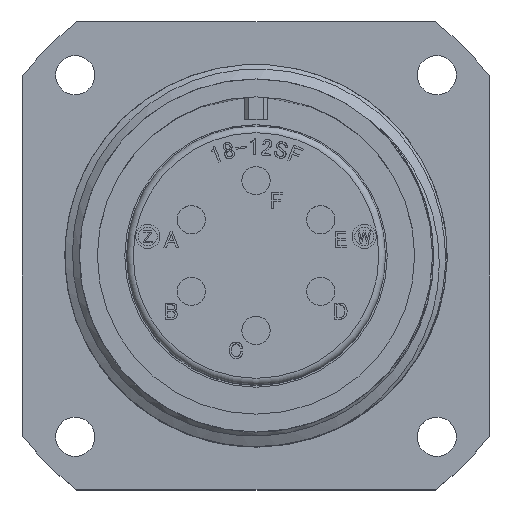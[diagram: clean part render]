
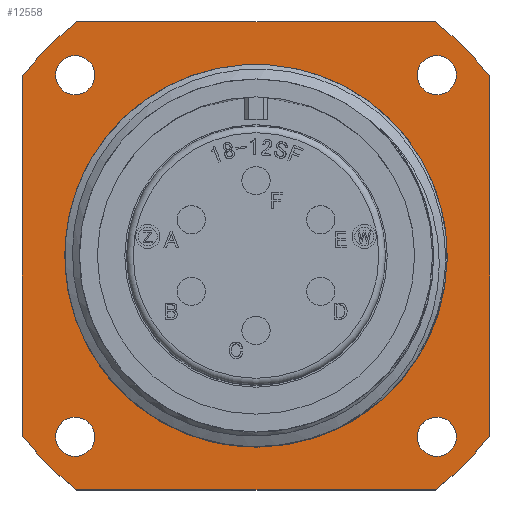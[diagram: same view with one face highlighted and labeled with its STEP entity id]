
A CAD part, top view. The second image highlights one B-rep face of the part: STEP entity #12558.
In plain terms, the highlighted planar face has unit normal (0, 0, 1).
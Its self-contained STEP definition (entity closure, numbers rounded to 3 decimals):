
#126 = EDGE_CURVE ( 'NONE', #29522, #24985, #13274, .T. ) ;
#159 = CARTESIAN_POINT ( 'NONE',  ( 0., 0., -19.24 ) ) ;
#315 = CARTESIAN_POINT ( 'NONE',  ( 12.03, 13.495, -19.24 ) ) ;
#393 = LINE ( 'NONE', #28834, #27933 ) ;
#1739 = DIRECTION ( 'NONE',  ( 1., 0., 0. ) ) ;
#1819 = LINE ( 'NONE', #21675, #23503 ) ;
#1918 = EDGE_LOOP ( 'NONE', ( #10561 ) ) ;
#2459 = CARTESIAN_POINT ( 'NONE',  ( -13.385, -17.46, -19.24 ) ) ;
#2519 = DIRECTION ( 'NONE',  ( 1., 0., 0. ) ) ;
#3557 = CARTESIAN_POINT ( 'NONE',  ( -13.385, -17.46, -19.24 ) ) ;
#3836 = FACE_BOUND ( 'NONE', #16830, .T. ) ;
#4122 = CARTESIAN_POINT ( 'NONE',  ( -17.46, -13.385, -19.24 ) ) ;
#4220 = DIRECTION ( 'NONE',  ( 0., 0., 1. ) ) ;
#4240 = EDGE_CURVE ( 'NONE', #13629, #29522, #29052, .T. ) ;
#4610 = EDGE_LOOP ( 'NONE', ( #14822, #14908, #21291, #13709, #5719, #22616, #10158, #22104 ) ) ;
#4840 = ORIENTED_EDGE ( 'NONE', *, *, #8996, .F. ) ;
#4852 = CARTESIAN_POINT ( 'NONE',  ( 14.265, 0., -19.24 ) ) ;
#5643 = FACE_BOUND ( 'NONE', #22167, .T. ) ;
#5664 = EDGE_LOOP ( 'NONE', ( #9673 ) ) ;
#5719 = ORIENTED_EDGE ( 'NONE', *, *, #126, .T. ) ;
#6343 = AXIS2_PLACEMENT_3D ( 'NONE', #13428, #4220, #1739 ) ;
#6543 = VERTEX_POINT ( 'NONE', #4122 ) ;
#6555 = DIRECTION ( 'NONE',  ( 0., 0., 1. ) ) ;
#6736 = AXIS2_PLACEMENT_3D ( 'NONE', #26604, #19431, #8002 ) ;
#6784 = AXIS2_PLACEMENT_3D ( 'NONE', #25564, #6869, #9210 ) ;
#6869 = DIRECTION ( 'NONE',  ( 0., 0., 1. ) ) ;
#6905 = EDGE_CURVE ( 'NONE', #19367, #19367, #22413, .T. ) ;
#7538 = EDGE_CURVE ( 'NONE', #10151, #10151, #13182, .T. ) ;
#7785 = CIRCLE ( 'NONE', #24717, 1.465 ) ;
#8002 = DIRECTION ( 'NONE',  ( 1., 0., 0. ) ) ;
#8250 = EDGE_CURVE ( 'NONE', #24985, #18550, #8379, .T. ) ;
#8379 = LINE ( 'NONE', #20621, #18666 ) ;
#8996 = EDGE_CURVE ( 'NONE', #28149, #28149, #23794, .T. ) ;
#9210 = DIRECTION ( 'NONE',  ( 1., 0., 0. ) ) ;
#9346 = DIRECTION ( 'NONE',  ( 0., 0., 1. ) ) ;
#9673 = ORIENTED_EDGE ( 'NONE', *, *, #16849, .F. ) ;
#9687 = EDGE_CURVE ( 'NONE', #6543, #13629, #12013, .T. ) ;
#10026 = CARTESIAN_POINT ( 'NONE',  ( 0., 0., -19.24 ) ) ;
#10151 = VERTEX_POINT ( 'NONE', #16940 ) ;
#10158 = ORIENTED_EDGE ( 'NONE', *, *, #28124, .T. ) ;
#10561 = ORIENTED_EDGE ( 'NONE', *, *, #14747, .F. ) ;
#11536 = FACE_OUTER_BOUND ( 'NONE', #4610, .T. ) ;
#11560 = CARTESIAN_POINT ( 'NONE',  ( 0., 0., -19.24 ) ) ;
#12013 = CIRCLE ( 'NONE', #24275, 22. ) ;
#12278 = FACE_BOUND ( 'NONE', #5664, .T. ) ;
#12368 = CARTESIAN_POINT ( 'NONE',  ( -17.46, 13.385, -19.24 ) ) ;
#12558 = ADVANCED_FACE ( 'NONE', ( #17402, #5643, #12278, #19998, #3836, #11536 ), #22867, .T. ) ;
#13182 = CIRCLE ( 'NONE', #6736, 1.465 ) ;
#13274 = CIRCLE ( 'NONE', #14892, 22. ) ;
#13311 = DIRECTION ( 'NONE',  ( 1., 0., 0. ) ) ;
#13409 = CARTESIAN_POINT ( 'NONE',  ( 0., 0., -19.24 ) ) ;
#13428 = CARTESIAN_POINT ( 'NONE',  ( 0., 0., -19.24 ) ) ;
#13629 = VERTEX_POINT ( 'NONE', #2459 ) ;
#13709 = ORIENTED_EDGE ( 'NONE', *, *, #4240, .T. ) ;
#14198 = DIRECTION ( 'NONE',  ( 1., 0., 0. ) ) ;
#14533 = VERTEX_POINT ( 'NONE', #12368 ) ;
#14557 = DIRECTION ( 'NONE',  ( 0., -1., 0. ) ) ;
#14747 = EDGE_CURVE ( 'NONE', #27804, #27804, #7785, .T. ) ;
#14822 = ORIENTED_EDGE ( 'NONE', *, *, #22424, .T. ) ;
#14892 = AXIS2_PLACEMENT_3D ( 'NONE', #11560, #27981, #14198 ) ;
#14908 = ORIENTED_EDGE ( 'NONE', *, *, #17755, .T. ) ;
#15704 = DIRECTION ( 'NONE',  ( 1., 0., 0. ) ) ;
#16285 = CARTESIAN_POINT ( 'NONE',  ( 13.385, -17.46, -19.24 ) ) ;
#16578 = DIRECTION ( 'NONE',  ( 0., 0., 1. ) ) ;
#16830 = EDGE_LOOP ( 'NONE', ( #4840 ) ) ;
#16849 = EDGE_CURVE ( 'NONE', #21181, #21181, #23912, .T. ) ;
#16940 = CARTESIAN_POINT ( 'NONE',  ( 14.96, -13.495, -19.24 ) ) ;
#17402 = FACE_BOUND ( 'NONE', #26098, .T. ) ;
#17613 = AXIS2_PLACEMENT_3D ( 'NONE', #13409, #6555, #13311 ) ;
#17755 = EDGE_CURVE ( 'NONE', #14533, #6543, #1819, .T. ) ;
#18046 = VECTOR ( 'NONE', #22642, 1000. ) ;
#18550 = VERTEX_POINT ( 'NONE', #30417 ) ;
#18666 = VECTOR ( 'NONE', #20731, 1000. ) ;
#19367 = VERTEX_POINT ( 'NONE', #4852 ) ;
#19431 = DIRECTION ( 'NONE',  ( 0., 0., 1. ) ) ;
#19998 = FACE_BOUND ( 'NONE', #1918, .T. ) ;
#20320 = AXIS2_PLACEMENT_3D ( 'NONE', #20663, #29663, #15704 ) ;
#20621 = CARTESIAN_POINT ( 'NONE',  ( 17.46, 13.385, -19.24 ) ) ;
#20663 = CARTESIAN_POINT ( 'NONE',  ( -13.495, 13.495, -19.24 ) ) ;
#20731 = DIRECTION ( 'NONE',  ( 0., 1., 0. ) ) ;
#21023 = ORIENTED_EDGE ( 'NONE', *, *, #7538, .F. ) ;
#21181 = VERTEX_POINT ( 'NONE', #28439 ) ;
#21291 = ORIENTED_EDGE ( 'NONE', *, *, #9687, .T. ) ;
#21675 = CARTESIAN_POINT ( 'NONE',  ( -17.46, 13.385, -19.24 ) ) ;
#21973 = CARTESIAN_POINT ( 'NONE',  ( 13.385, 17.46, -19.24 ) ) ;
#21987 = CARTESIAN_POINT ( 'NONE',  ( -13.385, 17.46, -19.24 ) ) ;
#22104 = ORIENTED_EDGE ( 'NONE', *, *, #25036, .T. ) ;
#22167 = EDGE_LOOP ( 'NONE', ( #21023 ) ) ;
#22317 = CIRCLE ( 'NONE', #6784, 22. ) ;
#22413 = CIRCLE ( 'NONE', #23647, 14.265 ) ;
#22424 = EDGE_CURVE ( 'NONE', #23784, #14533, #22593, .T. ) ;
#22593 = CIRCLE ( 'NONE', #6343, 22. ) ;
#22616 = ORIENTED_EDGE ( 'NONE', *, *, #8250, .T. ) ;
#22642 = DIRECTION ( 'NONE',  ( 1., 0., 0. ) ) ;
#22867 = PLANE ( 'NONE',  #17613 ) ;
#23503 = VECTOR ( 'NONE', #14557, 1000. ) ;
#23647 = AXIS2_PLACEMENT_3D ( 'NONE', #159, #16578, #2519 ) ;
#23784 = VERTEX_POINT ( 'NONE', #21987 ) ;
#23794 = CIRCLE ( 'NONE', #20320, 1.465 ) ;
#23889 = CARTESIAN_POINT ( 'NONE',  ( -13.495, -13.495, -19.24 ) ) ;
#23912 = CIRCLE ( 'NONE', #30388, 1.465 ) ;
#23927 = CARTESIAN_POINT ( 'NONE',  ( -12.03, 13.495, -19.24 ) ) ;
#24275 = AXIS2_PLACEMENT_3D ( 'NONE', #10026, #26357, #26055 ) ;
#24346 = CARTESIAN_POINT ( 'NONE',  ( 17.46, -13.385, -19.24 ) ) ;
#24717 = AXIS2_PLACEMENT_3D ( 'NONE', #30375, #9346, #25703 ) ;
#24985 = VERTEX_POINT ( 'NONE', #24346 ) ;
#25017 = VERTEX_POINT ( 'NONE', #21973 ) ;
#25036 = EDGE_CURVE ( 'NONE', #25017, #23784, #393, .T. ) ;
#25564 = CARTESIAN_POINT ( 'NONE',  ( 0., 0., -19.24 ) ) ;
#25703 = DIRECTION ( 'NONE',  ( -1., 0., 0. ) ) ;
#26055 = DIRECTION ( 'NONE',  ( 1., 0., 0. ) ) ;
#26098 = EDGE_LOOP ( 'NONE', ( #27245 ) ) ;
#26357 = DIRECTION ( 'NONE',  ( 0., 0., 1. ) ) ;
#26451 = DIRECTION ( 'NONE',  ( 0., 0., 1. ) ) ;
#26604 = CARTESIAN_POINT ( 'NONE',  ( 13.495, -13.495, -19.24 ) ) ;
#27245 = ORIENTED_EDGE ( 'NONE', *, *, #6905, .F. ) ;
#27804 = VERTEX_POINT ( 'NONE', #315 ) ;
#27933 = VECTOR ( 'NONE', #28638, 1000. ) ;
#27981 = DIRECTION ( 'NONE',  ( 0., 0., 1. ) ) ;
#28124 = EDGE_CURVE ( 'NONE', #18550, #25017, #22317, .T. ) ;
#28149 = VERTEX_POINT ( 'NONE', #23927 ) ;
#28439 = CARTESIAN_POINT ( 'NONE',  ( -14.96, -13.495, -19.24 ) ) ;
#28638 = DIRECTION ( 'NONE',  ( -1., 0., 0. ) ) ;
#28707 = DIRECTION ( 'NONE',  ( -1., 0., 0. ) ) ;
#28834 = CARTESIAN_POINT ( 'NONE',  ( -13.385, 17.46, -19.24 ) ) ;
#29052 = LINE ( 'NONE', #3557, #18046 ) ;
#29522 = VERTEX_POINT ( 'NONE', #16285 ) ;
#29663 = DIRECTION ( 'NONE',  ( 0., 0., 1. ) ) ;
#30375 = CARTESIAN_POINT ( 'NONE',  ( 13.495, 13.495, -19.24 ) ) ;
#30388 = AXIS2_PLACEMENT_3D ( 'NONE', #23889, #26451, #28707 ) ;
#30417 = CARTESIAN_POINT ( 'NONE',  ( 17.46, 13.385, -19.24 ) ) ;
